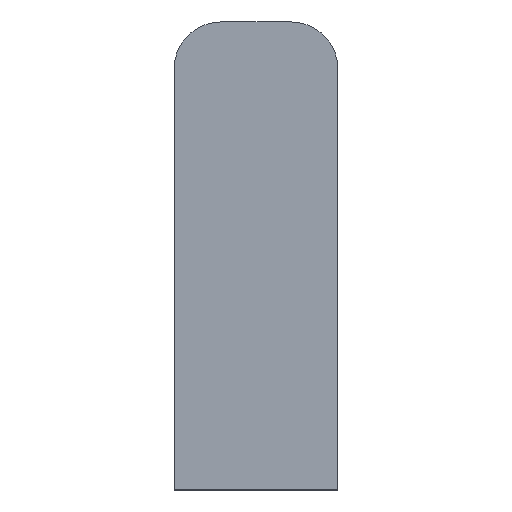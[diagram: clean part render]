
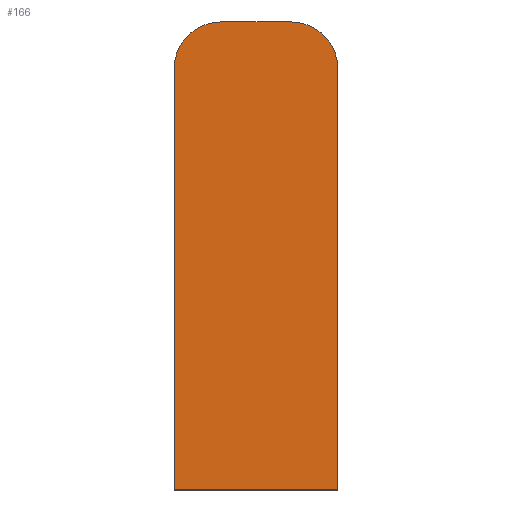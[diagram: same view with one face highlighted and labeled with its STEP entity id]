
A CAD part, front view. The second image highlights one B-rep face of the part: STEP entity #166.
In plain terms, the highlighted planar face has unit normal (0, -1, 0).
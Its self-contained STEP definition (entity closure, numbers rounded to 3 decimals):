
#1 = CARTESIAN_POINT ( 'NONE',  ( 2.25, 0., 10.5 ) ) ;
#11 = CARTESIAN_POINT ( 'NONE',  ( 5.25, 0., -16.5 ) ) ;
#12 = DIRECTION ( 'NONE',  ( 0., 0., 1. ) ) ;
#29 = CARTESIAN_POINT ( 'NONE',  ( -2.25, 0., 10.5 ) ) ;
#31 = DIRECTION ( 'NONE',  ( 0., -1., 0. ) ) ;
#32 = DIRECTION ( 'NONE',  ( -1., 0., 0. ) ) ;
#33 = CARTESIAN_POINT ( 'NONE',  ( -5.25, 0., -16.5 ) ) ;
#34 = DIRECTION ( 'NONE',  ( 0., 0., -1. ) ) ;
#35 = CARTESIAN_POINT ( 'NONE',  ( 2.25, 0., 13.5 ) ) ;
#36 = DIRECTION ( 'NONE',  ( -1., 0., 0. ) ) ;
#38 = CARTESIAN_POINT ( 'NONE',  ( 5.25, 0., -16.5 ) ) ;
#39 = DIRECTION ( 'NONE',  ( 1., 0., 0. ) ) ;
#59 = PLANE ( 'NONE',  #146 ) ;
#62 = CARTESIAN_POINT ( 'NONE',  ( 0., 0., -1.5 ) ) ;
#66 = DIRECTION ( 'NONE',  ( 0., 1., 0. ) ) ;
#67 = DIRECTION ( 'NONE',  ( -1., 0., 0. ) ) ;
#84 = DIRECTION ( 'NONE',  ( -1., 0., 0. ) ) ;
#85 = DIRECTION ( 'NONE',  ( 0., -1., 0. ) ) ;
#97 = CARTESIAN_POINT ( 'NONE',  ( 2.25, 0., 13.5 ) ) ;
#98 = CARTESIAN_POINT ( 'NONE',  ( -5.25, 0., -16.5 ) ) ;
#100 = CARTESIAN_POINT ( 'NONE',  ( 5.25, 0., 10.5 ) ) ;
#101 = CARTESIAN_POINT ( 'NONE',  ( -2.25, 0., 13.5 ) ) ;
#103 = CARTESIAN_POINT ( 'NONE',  ( -5.25, 0., 10.5 ) ) ;
#104 = VERTEX_POINT ( 'NONE', #117 ) ;
#107 = VERTEX_POINT ( 'NONE', #103 ) ;
#112 = VERTEX_POINT ( 'NONE', #101 ) ;
#113 = VERTEX_POINT ( 'NONE', #100 ) ;
#114 = VERTEX_POINT ( 'NONE', #98 ) ;
#115 = VERTEX_POINT ( 'NONE', #97 ) ;
#117 = CARTESIAN_POINT ( 'NONE',  ( 5.25, 0., -16.5 ) ) ;
#122 = EDGE_CURVE ( 'NONE', #113, #115, #236, .T. ) ;
#130 = EDGE_CURVE ( 'NONE', #104, #113, #241, .T. ) ;
#146 = AXIS2_PLACEMENT_3D ( 'NONE', #62, #66, #67 ) ;
#151 = EDGE_CURVE ( 'NONE', #112, #107, #214, .T. ) ;
#153 = AXIS2_PLACEMENT_3D ( 'NONE', #29, #31, #32 ) ;
#155 = EDGE_CURVE ( 'NONE', #107, #114, #207, .T. ) ;
#156 = EDGE_CURVE ( 'NONE', #115, #112, #244, .T. ) ;
#157 = EDGE_CURVE ( 'NONE', #114, #104, #233, .T. ) ;
#158 = AXIS2_PLACEMENT_3D ( 'NONE', #1, #85, #84 ) ;
#166 = ADVANCED_FACE ( 'NONE', ( #262 ), #59, .F. ) ;
#176 = ORIENTED_EDGE ( 'NONE', *, *, #155, .T. ) ;
#177 = ORIENTED_EDGE ( 'NONE', *, *, #157, .T. ) ;
#189 = EDGE_LOOP ( 'NONE', ( #208, #206, #191, #212, #176, #177 ) ) ;
#191 = ORIENTED_EDGE ( 'NONE', *, *, #156, .T. ) ;
#194 = VECTOR ( 'NONE', #34, 1000. ) ;
#206 = ORIENTED_EDGE ( 'NONE', *, *, #122, .T. ) ;
#207 = LINE ( 'NONE', #33, #194 ) ;
#208 = ORIENTED_EDGE ( 'NONE', *, *, #130, .T. ) ;
#212 = ORIENTED_EDGE ( 'NONE', *, *, #151, .T. ) ;
#214 = CIRCLE ( 'NONE', #153, 3. ) ;
#232 = VECTOR ( 'NONE', #36, 1000. ) ;
#233 = LINE ( 'NONE', #38, #234 ) ;
#234 = VECTOR ( 'NONE', #39, 1000. ) ;
#236 = CIRCLE ( 'NONE', #158, 3. ) ;
#237 = VECTOR ( 'NONE', #12, 1000. ) ;
#241 = LINE ( 'NONE', #11, #237 ) ;
#244 = LINE ( 'NONE', #35, #232 ) ;
#262 = FACE_OUTER_BOUND ( 'NONE', #189, .T. ) ;
